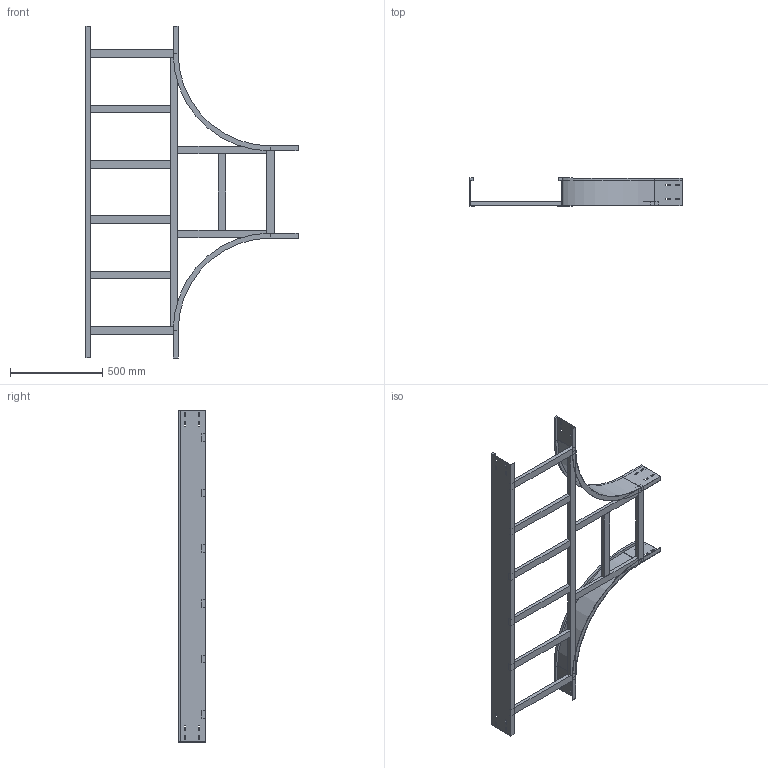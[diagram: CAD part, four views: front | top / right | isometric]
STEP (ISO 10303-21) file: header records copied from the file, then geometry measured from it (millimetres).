
FILE_DESCRIPTION (( 'STEP AP214' ), '1' );
FILE_NAME ('15J5F500.step', '2025-02-21T16:28:12', ( '' ), ( '' ), 'SwSTEP 2.0', 'SolidWorks 2023', '' );
FILE_SCHEMA (( 'AUTOMOTIVE_DESIGN' ));
Length unit declared in the file: millimetre
Products named in the file (8): TRAVERSINO_500; TRAVERSINO_COPPIA_500; LONGH.INTERNO 90°_H150_R500; TRAVERSINO_LONG._R500+500; TRAVERSINO_INTERMEDIO_R500+500; 15J5F500; LONGH.RETT_H150_R500+500; TRAVERSINO_VERT_R500
Assembly tree (14 placements, depth 2):
  15J5F500
    LONGH.INTERNO 90°_H150_R500  x2
    LONGH.RETT_H150_R500+500
    TRAVERSINO_500  x3
    TRAVERSINO_LONG._R500+500
    TRAVERSINO_INTERMEDIO_R500+500  x4
    TRAVERSINO_VERT_R500  x2
    TRAVERSINO_COPPIA_500
Bounding box: 1150 x 150 x 1800 mm (x, y, z)
Volume: 7130503.6 mm3; surface area: 2295169.7 mm2
Topology: 14 solids, 14 shells, 224 faces, 556 edges, 360 vertices
Faces by surface type: plane 216, cylinder 8
Entity records: 4209 total; most frequent: CARTESIAN_POINT 695, ORIENTED_EDGE 664, DIRECTION 634, EDGE_CURVE 332, VECTOR 324, LINE 324, VERTEX_POINT 216, EDGE_LOOP 162
